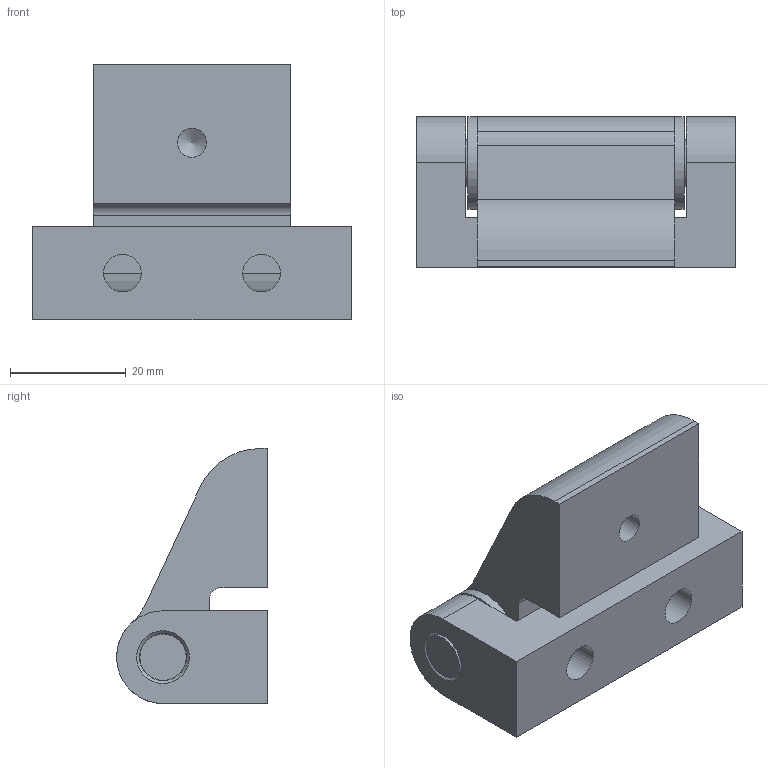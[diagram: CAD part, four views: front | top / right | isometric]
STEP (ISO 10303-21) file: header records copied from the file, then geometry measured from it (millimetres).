
FILE_DESCRIPTION (( 'STEP AP214' ), '1' );
FILE_NAME ('charniere N50122_N50114_N30124.step', '2024-12-03T16:10:36', ( '' ), ( '' ), 'SwSTEP 2.0', 'SolidWorks 2023', '' );
FILE_SCHEMA (( 'AUTOMOTIVE_DESIGN' ));
Length unit declared in the file: millimetre
Products named in the file (4): charniere N50122_N50114_N30124; N50122; N30124; N50114
Assembly tree (3 placements, depth 2):
  charniere N50122_N50114_N30124
    N50122
    N50114
    N30124
Bounding box: 55 x 26 x 44 mm (x, y, z)
Volume: 30826.9 mm3; surface area: 15657.5 mm2
Topology: 7 solids, 7 shells, 55 faces, 115 edges, 77 vertices
Faces by surface type: plane 28, cylinder 24, cone 3
Full cylindrical faces by diameter (mm): 5 x1, 6.5 x2, 8 x1, 8.1 x2, 8.3 x1, 8.5 x4, 10.25 x3, 11.5 x2, 16 x2
Entity records: 1530 total; most frequent: DIRECTION 261, CARTESIAN_POINT 222, ORIENTED_EDGE 178, AXIS2_PLACEMENT_3D 111, EDGE_LOOP 97, EDGE_CURVE 89, FACE_OUTER_BOUND 73, VERTEX_POINT 72
